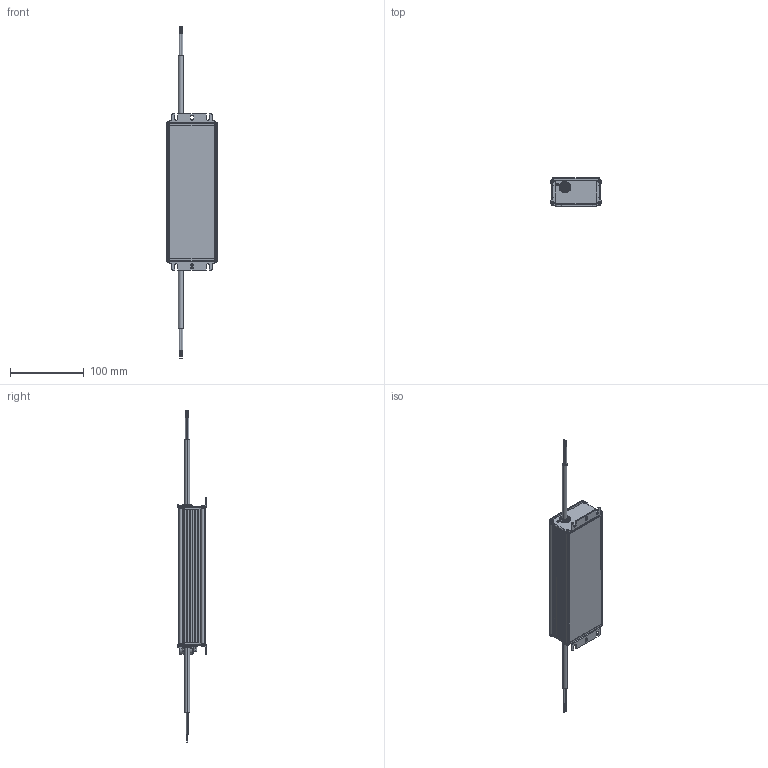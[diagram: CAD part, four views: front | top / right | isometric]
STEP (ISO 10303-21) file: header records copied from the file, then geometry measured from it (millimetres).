
FILE_DESCRIPTION (( 'STEP AP214' ), '1' );
FILE_NAME ('NFC 150W_20170927.STEP', '2017-09-27T02:26:35', ( '' ), ( '' ), 'SwSTEP 2.0', 'SolidWorks 2015', '' );
FILE_SCHEMA (( 'AUTOMOTIVE_DESIGN' ));
Length unit declared in the file: millimetre
Products named in the file (14): housing_weak_150w; NFC 150W_20170927; End_cap_End Cap_In; End_cap_End Cap_out; U shape Gasket_100w; Bushing; cross recessed pan head tapping screws gb_GB_CROSS_SCREWS_TYPE128 ST2.2X4.5 H C-N; TIE_Standard; Ins_sheet_150; NFC_choke; gasket_drum_choke; cap_for_drum_choke; 2c1_cable_ass; 3c1qu_asm
Assembly tree (26 placements, depth 3):
  NFC 150W_20170927
    housing_weak_150w
    3c1qu_asm
    2c1_cable_ass
    NFC_choke
      cap_for_drum_choke
      gasket_drum_choke
    Ins_sheet_150
    TIE_Standard  x2
    cross recessed pan head tapping screws gb_GB_CROSS_SCREWS_TYPE128 ST2.2X4.5 H C-N  x11
    Bushing  x2
    U shape Gasket_100w  x2
    End_cap_End Cap_out
    End_cap_End Cap_In
Bounding box: 68.51 x 38.6 x 451.6 mm (x, y, z)
Volume: 78635.7 mm3; surface area: 188972.7 mm2
Topology: 37 solids, 37 shells, 1326 faces, 3314 edges, 2072 vertices
Faces by surface type: plane 634, cylinder 424, torus 126, cone 82, bspline 38, sphere 22
Entity records: 30717 total; most frequent: CARTESIAN_POINT 6618, DIRECTION 4880, ORIENTED_EDGE 4646, EDGE_CURVE 2323, AXIS2_PLACEMENT_3D 1770, VERTEX_POINT 1466, LINE 1340, VECTOR 1340
